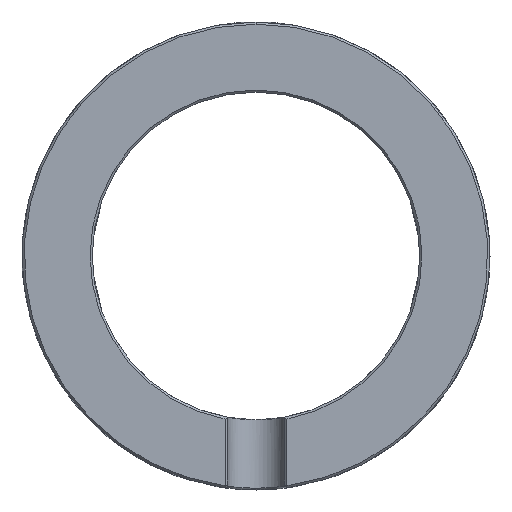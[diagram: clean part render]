
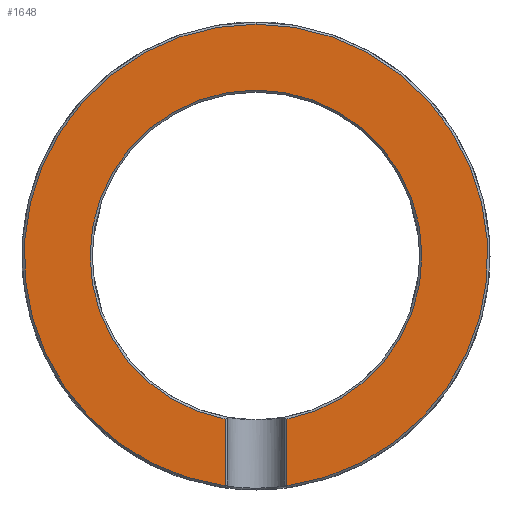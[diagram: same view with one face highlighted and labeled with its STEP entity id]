
A CAD part, front view. The second image highlights one B-rep face of the part: STEP entity #1648.
In plain terms, the highlighted planar face has unit normal (0, -1, 0).
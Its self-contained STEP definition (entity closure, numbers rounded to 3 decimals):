
#99 = DIRECTION ( 'NONE',  ( 0., 0., 1. ) ) ;
#165 = VECTOR ( 'NONE', #4939, 1000. ) ;
#193 = DIRECTION ( 'NONE',  ( 0., -1., 0. ) ) ;
#316 = CARTESIAN_POINT ( 'NONE',  ( 0., 0., 0. ) ) ;
#570 = PLANE ( 'NONE',  #3253 ) ;
#677 = EDGE_CURVE ( 'NONE', #5672, #713, #2601, .T. ) ;
#713 = VERTEX_POINT ( 'NONE', #2421 ) ;
#954 = VERTEX_POINT ( 'NONE', #2931 ) ;
#965 = CARTESIAN_POINT ( 'NONE',  ( 0., 0., 0. ) ) ;
#1007 = CIRCLE ( 'NONE', #1678, 23.05 ) ;
#1352 = EDGE_CURVE ( 'NONE', #713, #3974, #1723, .T. ) ;
#1403 = DIRECTION ( 'NONE',  ( 0., -1., 0. ) ) ;
#1631 = ORIENTED_EDGE ( 'NONE', *, *, #2142, .T. ) ;
#1648 = ADVANCED_FACE ( 'NONE', ( #4586 ), #570, .F. ) ;
#1678 = AXIS2_PLACEMENT_3D ( 'NONE', #965, #2322, #4109 ) ;
#1723 = LINE ( 'NONE', #5387, #165 ) ;
#1744 = ORIENTED_EDGE ( 'NONE', *, *, #677, .T. ) ;
#2086 = CARTESIAN_POINT ( 'NONE',  ( 4.3, 0., -31.912 ) ) ;
#2142 = EDGE_CURVE ( 'NONE', #954, #2453, #3744, .T. ) ;
#2251 = EDGE_CURVE ( 'NONE', #3974, #954, #1007, .T. ) ;
#2322 = DIRECTION ( 'NONE',  ( 0., 1., 0. ) ) ;
#2359 = DIRECTION ( 'NONE',  ( 0., 1., 0. ) ) ;
#2421 = CARTESIAN_POINT ( 'NONE',  ( -4.3, 0., -31.912 ) ) ;
#2453 = VERTEX_POINT ( 'NONE', #2086 ) ;
#2508 = CARTESIAN_POINT ( 'NONE',  ( -4.3, 0., -22.645 ) ) ;
#2601 = CIRCLE ( 'NONE', #3065, 32.2 ) ;
#2931 = CARTESIAN_POINT ( 'NONE',  ( 4.3, 0., -22.645 ) ) ;
#3043 = ORIENTED_EDGE ( 'NONE', *, *, #5197, .T. ) ;
#3065 = AXIS2_PLACEMENT_3D ( 'NONE', #316, #193, #5159 ) ;
#3253 = AXIS2_PLACEMENT_3D ( 'NONE', #4668, #2359, #99 ) ;
#3352 = AXIS2_PLACEMENT_3D ( 'NONE', #4511, #1403, #4956 ) ;
#3744 = LINE ( 'NONE', #4631, #3915 ) ;
#3915 = VECTOR ( 'NONE', #4964, 1000. ) ;
#3974 = VERTEX_POINT ( 'NONE', #2508 ) ;
#4109 = DIRECTION ( 'NONE',  ( 0., 0., 1. ) ) ;
#4387 = CARTESIAN_POINT ( 'NONE',  ( 0., 0., 32.2 ) ) ;
#4511 = CARTESIAN_POINT ( 'NONE',  ( 0., 0., 0. ) ) ;
#4586 = FACE_OUTER_BOUND ( 'NONE', #4845, .T. ) ;
#4631 = CARTESIAN_POINT ( 'NONE',  ( 4.3, 0., 0. ) ) ;
#4668 = CARTESIAN_POINT ( 'NONE',  ( 0., 0., 0. ) ) ;
#4845 = EDGE_LOOP ( 'NONE', ( #1631, #3043, #1744, #5573, #5112 ) ) ;
#4939 = DIRECTION ( 'NONE',  ( 0., 0., 1. ) ) ;
#4956 = DIRECTION ( 'NONE',  ( 0., 0., 1. ) ) ;
#4964 = DIRECTION ( 'NONE',  ( 0., 0., -1. ) ) ;
#5112 = ORIENTED_EDGE ( 'NONE', *, *, #2251, .T. ) ;
#5139 = CIRCLE ( 'NONE', #3352, 32.2 ) ;
#5159 = DIRECTION ( 'NONE',  ( 0., 0., 1. ) ) ;
#5197 = EDGE_CURVE ( 'NONE', #2453, #5672, #5139, .T. ) ;
#5387 = CARTESIAN_POINT ( 'NONE',  ( -4.3, 0., 0. ) ) ;
#5573 = ORIENTED_EDGE ( 'NONE', *, *, #1352, .T. ) ;
#5672 = VERTEX_POINT ( 'NONE', #4387 ) ;
